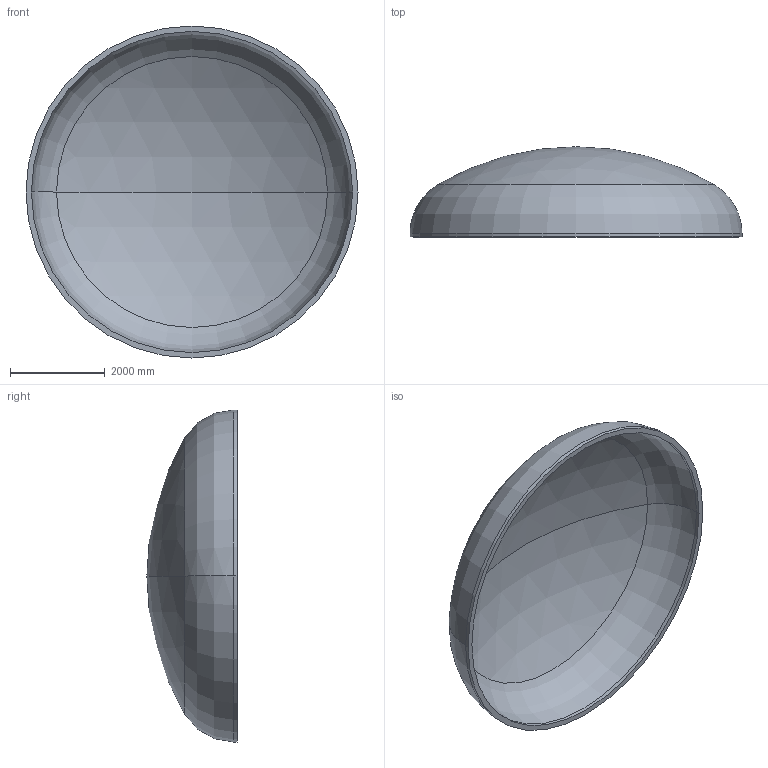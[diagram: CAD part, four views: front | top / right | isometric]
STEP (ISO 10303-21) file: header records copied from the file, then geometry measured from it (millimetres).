
FILE_DESCRIPTION (( 'STEP AP203' ), '1' );
FILE_NAME ('DIN 28013 Korbbogenform_-_Boden DIN 28013 - 7000 x 75 - I - s=114.step', '2016-07-04T10:50:38', ( '' ), ( '' ), 'SwSTEP 2.0', 'SolidWorks 2013', '' );
FILE_SCHEMA (( 'CONFIG_CONTROL_DESIGN' ));
Length unit declared in the file: millimetre
Products named in the file (1): DIN 28013 Korbbogenform_-_Boden DIN 28013 - 7000 x 75 - I - s=114
Bounding box: 7000 x 1901.49 x 7000 mm (x, y, z)
Volume: 6134203478.2 mm3; surface area: 110110945.6 mm2
Topology: 1 solids, 1 shells, 13 faces, 24 edges, 14 vertices
Faces by surface type: torus 4, cylinder 4, sphere 4, plane 1
Entity records: 407 total; most frequent: DIRECTION 72, CARTESIAN_POINT 52, ORIENTED_EDGE 48, AXIS2_PLACEMENT_3D 34, EDGE_CURVE 24, CIRCLE 20, VERTEX_POINT 14, EDGE_LOOP 14
